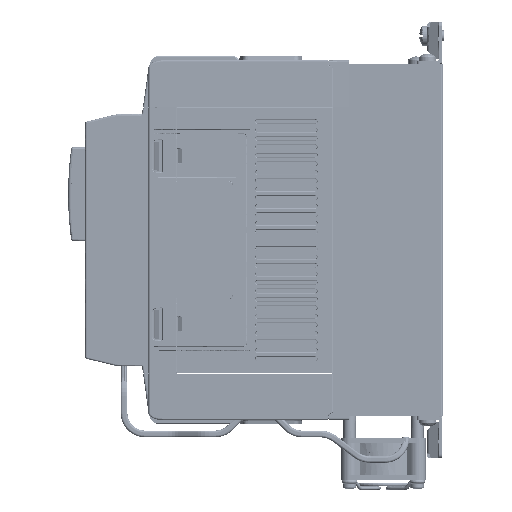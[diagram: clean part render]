
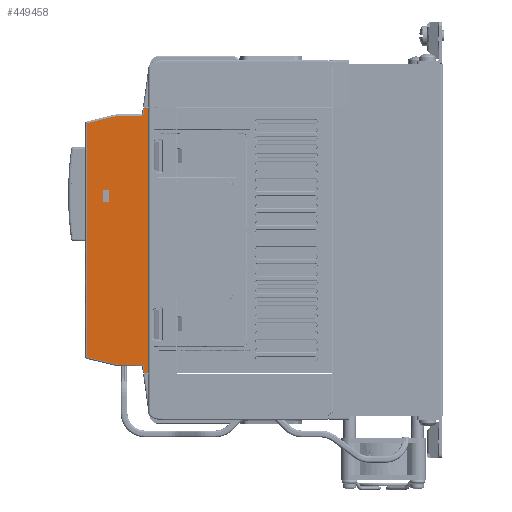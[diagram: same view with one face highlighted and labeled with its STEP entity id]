
A CAD part, front view. The second image highlights one B-rep face of the part: STEP entity #449458.
In plain terms, the highlighted free-form (B-spline) face has degree [1, 1] with [2, 2] control points.
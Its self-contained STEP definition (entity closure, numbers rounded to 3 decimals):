
#429112=CARTESIAN_POINT('',(-168.032,1.393,28.099));
#429113=VERTEX_POINT('',#429112);
#429121=CARTESIAN_POINT('',(-168.032,1.393,138.301));
#429122=VERTEX_POINT('',#429121);
#429123=CARTESIAN_POINT('',(-168.032,1.393,138.301));
#429124=DIRECTION('',(0.0,0.0,-1.0));
#429125=VECTOR('',#429124,110.202);
#429126=LINE('',#429123,#429125);
#429127=EDGE_CURVE('',#429122,#429113,#429126,.T.);
#448471=CARTESIAN_POINT('',(-139.,1.14,20.58));
#448472=VERTEX_POINT('',#448471);
#448473=CARTESIAN_POINT('',(-140.806,1.155,20.596));
#448474=VERTEX_POINT('',#448473);
#448475=CARTESIAN_POINT('',(-140.806,1.155,20.596));
#448476=DIRECTION('',(1.,-0.009,-0.009));
#448477=VECTOR('',#448476,1.806);
#448478=LINE('',#448475,#448477);
#448479=EDGE_CURVE('',#448472,#448474,#448478,.F.);
#448560=CARTESIAN_POINT('',(-141.202,1.159,23.453));
#448561=VERTEX_POINT('',#448560);
#448562=CARTESIAN_POINT('',(-141.202,1.159,23.453));
#448563=DIRECTION('',(0.137,-0.001,-0.991));
#448564=VECTOR('',#448563,2.885);
#448565=LINE('',#448562,#448564);
#448566=EDGE_CURVE('',#448561,#448474,#448565,.T.);
#448687=CARTESIAN_POINT('',(-142.282,1.168,24.402));
#448688=VERTEX_POINT('',#448687);
#448689=CARTESIAN_POINT('',(-142.292,1.168,23.302));
#448690=DIRECTION('',(0.009,1.,0.));
#448691=DIRECTION('',(1.,-0.009,0.));
#448692=AXIS2_PLACEMENT_3D('',#448689,#448690,#448691);
#448693=ELLIPSE('',#448692,1.1,1.1);
#448694=EDGE_CURVE('',#448688,#448561,#448693,.T.);
#448711=CARTESIAN_POINT('',(-153.706,1.268,24.502));
#448712=VERTEX_POINT('',#448711);
#448713=CARTESIAN_POINT('',(-153.706,1.268,24.502));
#448714=DIRECTION('',(1.,-0.009,-0.009));
#448715=VECTOR('',#448714,11.425);
#448716=LINE('',#448713,#448715);
#448717=EDGE_CURVE('',#448712,#448688,#448716,.T.);
#448741=CARTESIAN_POINT('',(-167.879,1.392,27.904));
#448742=VERTEX_POINT('',#448741);
#448743=CARTESIAN_POINT('',(-167.879,1.392,27.904));
#448744=DIRECTION('',(0.972,-0.008,-0.233));
#448745=VECTOR('',#448744,14.576);
#448746=LINE('',#448743,#448745);
#448747=EDGE_CURVE('',#448742,#448712,#448746,.T.);
#448982=CARTESIAN_POINT('',(-167.832,1.391,28.099));
#448983=DIRECTION('',(-0.009,-1.,0.));
#448984=DIRECTION('',(-1.,0.009,0.));
#448985=AXIS2_PLACEMENT_3D('',#448982,#448983,#448984);
#448986=ELLIPSE('',#448985,0.2,0.2);
#448987=EDGE_CURVE('',#429113,#448742,#448986,.T.);
#449318=CARTESIAN_POINT('',(-139.,1.14,145.82));
#449319=CARTESIAN_POINT('',(-139.,1.14,20.58));
#449320=CARTESIAN_POINT('',(-168.032,1.393,145.82));
#449321=CARTESIAN_POINT('',(-168.032,1.393,20.58));
#449322=B_SPLINE_SURFACE_WITH_KNOTS('',1,1,((#449318,#449320),(#449319,#449321)),.UNSPECIFIED.,.F.,.F.,.U.,(2,2),(2,2),(0.0,125.239),(0.0,29.033),.UNSPECIFIED.);
#449323=CARTESIAN_POINT('',(-139.,1.14,145.82));
#449324=VERTEX_POINT('',#449323);
#449325=CARTESIAN_POINT('',(-139.,1.14,145.82));
#449326=DIRECTION('',(0.0,0.0,-1.0));
#449327=VECTOR('',#449326,125.239);
#449328=LINE('',#449325,#449327);
#449329=EDGE_CURVE('',#449324,#448472,#449328,.T.);
#449330=ORIENTED_EDGE('',*,*,#449329,.F.);
#449331=CARTESIAN_POINT('',(-140.806,1.155,145.804));
#449332=VERTEX_POINT('',#449331);
#449333=CARTESIAN_POINT('',(-140.806,1.155,145.804));
#449334=DIRECTION('',(1.,-0.009,0.009));
#449335=VECTOR('',#449334,1.806);
#449336=LINE('',#449333,#449335);
#449337=EDGE_CURVE('',#449324,#449332,#449336,.F.);
#449338=ORIENTED_EDGE('',*,*,#449337,.T.);
#449339=CARTESIAN_POINT('',(-141.202,1.159,142.947));
#449340=VERTEX_POINT('',#449339);
#449341=CARTESIAN_POINT('',(-141.202,1.159,142.947));
#449342=DIRECTION('',(0.137,-0.001,0.991));
#449343=VECTOR('',#449342,2.885);
#449344=LINE('',#449341,#449343);
#449345=EDGE_CURVE('',#449340,#449332,#449344,.T.);
#449346=ORIENTED_EDGE('',*,*,#449345,.F.);
#449347=CARTESIAN_POINT('',(-142.282,1.168,141.998));
#449348=VERTEX_POINT('',#449347);
#449349=CARTESIAN_POINT('',(-142.292,1.168,143.098));
#449350=DIRECTION('',(-0.009,-1.,0.));
#449351=DIRECTION('',(1.,-0.009,0.));
#449352=AXIS2_PLACEMENT_3D('',#449349,#449350,#449351);
#449353=ELLIPSE('',#449352,1.1,1.1);
#449354=EDGE_CURVE('',#449348,#449340,#449353,.T.);
#449355=ORIENTED_EDGE('',*,*,#449354,.F.);
#449356=CARTESIAN_POINT('',(-153.706,1.268,141.898));
#449357=VERTEX_POINT('',#449356);
#449358=CARTESIAN_POINT('',(-153.706,1.268,141.898));
#449359=DIRECTION('',(1.,-0.009,0.009));
#449360=VECTOR('',#449359,11.425);
#449361=LINE('',#449358,#449360);
#449362=EDGE_CURVE('',#449357,#449348,#449361,.T.);
#449363=ORIENTED_EDGE('',*,*,#449362,.F.);
#449364=CARTESIAN_POINT('',(-167.879,1.392,138.496));
#449365=VERTEX_POINT('',#449364);
#449366=CARTESIAN_POINT('',(-167.879,1.392,138.496));
#449367=DIRECTION('',(0.972,-0.008,0.233));
#449368=VECTOR('',#449367,14.576);
#449369=LINE('',#449366,#449368);
#449370=EDGE_CURVE('',#449365,#449357,#449369,.T.);
#449371=ORIENTED_EDGE('',*,*,#449370,.F.);
#449372=CARTESIAN_POINT('',(-167.832,1.391,138.301));
#449373=DIRECTION('',(0.009,1.,0.));
#449374=DIRECTION('',(-1.,0.009,0.));
#449375=AXIS2_PLACEMENT_3D('',#449372,#449373,#449374);
#449376=ELLIPSE('',#449375,0.2,0.2);
#449377=EDGE_CURVE('',#429122,#449365,#449376,.T.);
#449378=ORIENTED_EDGE('',*,*,#449377,.F.);
#449379=ORIENTED_EDGE('',*,*,#429127,.T.);
#449380=ORIENTED_EDGE('',*,*,#448987,.T.);
#449381=ORIENTED_EDGE('',*,*,#448747,.T.);
#449382=ORIENTED_EDGE('',*,*,#448717,.T.);
#449383=ORIENTED_EDGE('',*,*,#448694,.T.);
#449384=ORIENTED_EDGE('',*,*,#448566,.T.);
#449385=ORIENTED_EDGE('',*,*,#448479,.F.);
#449386=EDGE_LOOP('',(#449330,#449338,#449346,#449355,#449363,#449371,#449378,#449379,#449380,#449381,#449382,#449383,#449384,#449385));
#449387=FACE_OUTER_BOUND('',#449386,.T.);
#449388=CARTESIAN_POINT('',(-157.38,1.3,106.545));
#449389=VERTEX_POINT('',#449388);
#449390=CARTESIAN_POINT('',(-157.38,1.3,101.655));
#449391=VERTEX_POINT('',#449390);
#449392=CARTESIAN_POINT('',(-157.38,1.3,106.545));
#449393=DIRECTION('',(0.0,0.0,-1.0));
#449394=VECTOR('',#449393,4.89);
#449395=LINE('',#449392,#449394);
#449396=EDGE_CURVE('',#449389,#449391,#449395,.T.);
#449397=ORIENTED_EDGE('',*,*,#449396,.T.);
#449398=CARTESIAN_POINT('',(-157.88,1.304,101.155));
#449399=VERTEX_POINT('',#449398);
#449400=CARTESIAN_POINT('',(-157.88,1.304,101.655));
#449401=DIRECTION('',(-0.009,-1.,0.));
#449402=DIRECTION('',(0.832,-0.007,-0.555));
#449403=AXIS2_PLACEMENT_3D('',#449400,#449401,#449402);
#449404=ELLIPSE('',#449403,0.5,0.5);
#449405=EDGE_CURVE('',#449391,#449399,#449404,.F.);
#449406=ORIENTED_EDGE('',*,*,#449405,.T.);
#449407=CARTESIAN_POINT('',(-159.77,1.321,101.155));
#449408=VERTEX_POINT('',#449407);
#449409=CARTESIAN_POINT('',(-157.88,1.304,101.155));
#449410=DIRECTION('',(-1.,0.009,0.));
#449411=VECTOR('',#449410,1.89);
#449412=LINE('',#449409,#449411);
#449413=EDGE_CURVE('',#449399,#449408,#449412,.T.);
#449414=ORIENTED_EDGE('',*,*,#449413,.T.);
#449415=CARTESIAN_POINT('',(-160.27,1.325,101.655));
#449416=VERTEX_POINT('',#449415);
#449417=CARTESIAN_POINT('',(-159.77,1.321,101.655));
#449418=DIRECTION('',(-0.009,-1.,0.));
#449419=DIRECTION('',(-0.447,0.004,-0.894));
#449420=AXIS2_PLACEMENT_3D('',#449417,#449418,#449419);
#449421=ELLIPSE('',#449420,0.5,0.5);
#449422=EDGE_CURVE('',#449408,#449416,#449421,.F.);
#449423=ORIENTED_EDGE('',*,*,#449422,.T.);
#449424=CARTESIAN_POINT('',(-160.27,1.325,106.545));
#449425=VERTEX_POINT('',#449424);
#449426=CARTESIAN_POINT('',(-160.27,1.325,101.655));
#449427=DIRECTION('',(0.0,0.0,1.0));
#449428=VECTOR('',#449427,4.889);
#449429=LINE('',#449426,#449428);
#449430=EDGE_CURVE('',#449416,#449425,#449429,.T.);
#449431=ORIENTED_EDGE('',*,*,#449430,.T.);
#449432=CARTESIAN_POINT('',(-159.77,1.321,107.045));
#449433=VERTEX_POINT('',#449432);
#449434=CARTESIAN_POINT('',(-159.77,1.321,106.545));
#449435=DIRECTION('',(0.009,1.,0.));
#449436=DIRECTION('',(-0.447,0.004,0.894));
#449437=AXIS2_PLACEMENT_3D('',#449434,#449435,#449436);
#449438=ELLIPSE('',#449437,0.5,0.5);
#449439=EDGE_CURVE('',#449433,#449425,#449438,.F.);
#449440=ORIENTED_EDGE('',*,*,#449439,.F.);
#449441=CARTESIAN_POINT('',(-157.88,1.304,107.045));
#449442=VERTEX_POINT('',#449441);
#449443=CARTESIAN_POINT('',(-157.88,1.304,107.045));
#449444=DIRECTION('',(-1.,0.009,0.));
#449445=VECTOR('',#449444,1.89);
#449446=LINE('',#449443,#449445);
#449447=EDGE_CURVE('',#449442,#449433,#449446,.T.);
#449448=ORIENTED_EDGE('',*,*,#449447,.F.);
#449449=CARTESIAN_POINT('',(-157.88,1.304,106.545));
#449450=DIRECTION('',(0.009,1.,0.));
#449451=DIRECTION('',(0.832,-0.007,0.555));
#449452=AXIS2_PLACEMENT_3D('',#449449,#449450,#449451);
#449453=ELLIPSE('',#449452,0.5,0.5);
#449454=EDGE_CURVE('',#449389,#449442,#449453,.F.);
#449455=ORIENTED_EDGE('',*,*,#449454,.F.);
#449456=EDGE_LOOP('',(#449397,#449406,#449414,#449423,#449431,#449440,#449448,#449455));
#449457=FACE_BOUND('',#449456,.T.);
#449458=ADVANCED_FACE('',(#449387,#449457),#449322,.F.);
